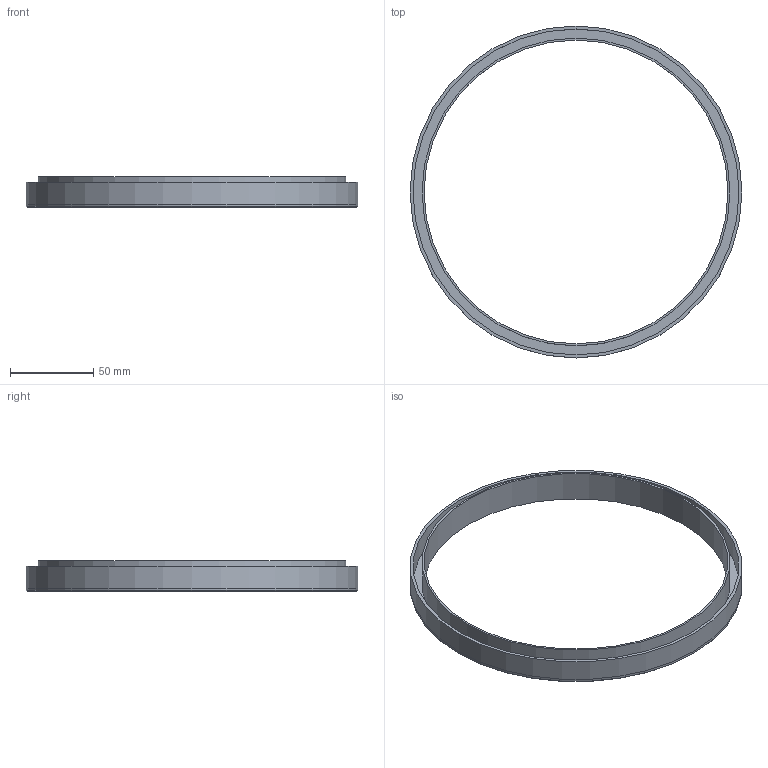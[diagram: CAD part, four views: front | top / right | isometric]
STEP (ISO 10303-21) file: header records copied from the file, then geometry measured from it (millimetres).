
FILE_DESCRIPTION(('FreeCAD Model'),'2;1');
FILE_NAME('Open CASCADE Shape Model','2024-03-23T00:14:13',(''),(''), 'Open CASCADE STEP processor 7.6','FreeCAD','Unknown');
FILE_SCHEMA(('AUTOMOTIVE_DESIGN { 1 0 10303 214 1 1 1 1 }'));
Length unit declared in the file: millimetre
Products named in the file (1): Spacer_full
Bounding box: 199.5 x 199.5 x 18.5 mm (x, y, z)
Volume: 35997.4 mm3; surface area: 47526.9 mm2
Topology: 1 solids, 1 shells, 11 faces, 17 edges, 11 vertices
Faces by surface type: plane 5, cylinder 5, cone 1
Full cylindrical faces by diameter (mm): 182.6 x1, 185 x1, 195.9 x1, 199.5 x2
Entity records: 280 total; most frequent: DIRECTION 52, CARTESIAN_POINT 40, ORIENTED_EDGE 34, AXIS2_PLACEMENT_3D 23, EDGE_CURVE 17, FACE_BOUND 16, EDGE_LOOP 16, ADVANCED_FACE 11
